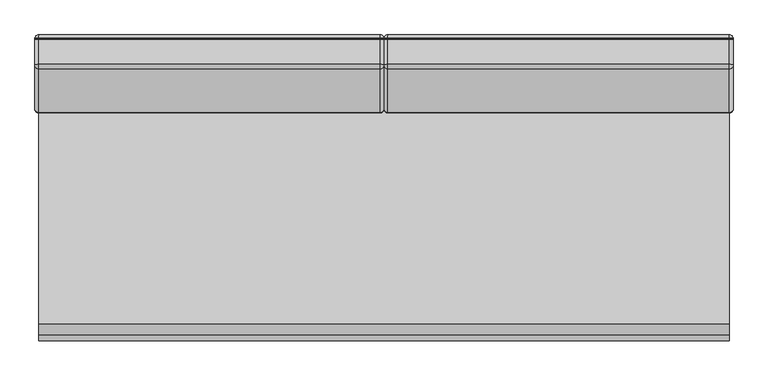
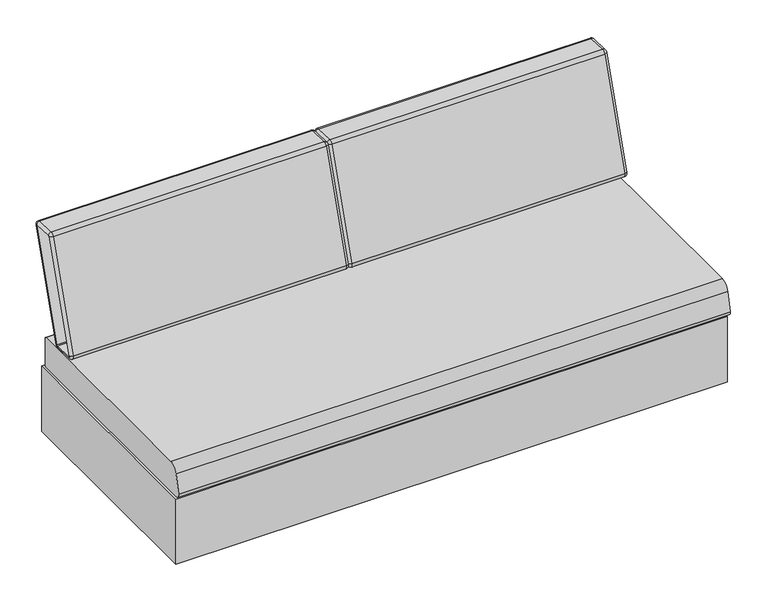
"""IFC4 building model written with IfcOpenShell, lengths in millimetres: furniture geometry, Krug-Amelio-Sleep_Sofa : AME6SL74FALS2."""

import ifcopenshell
import ifcopenshell.guid

model = None  # the IFC model being written
_history = None  # IfcOwnerHistory: only IFC2X3 demands one
_inside = {}  # id of a spatial element -> (the spatial element, [elements in it])
_under = {}  # id of a project, library or spatial element -> (it, [spatial elements below it])
_declared = {}  # id of a project -> (the project, [libraries it declares])
_typed = {}  # id of a type object -> (the type object, [elements of that type])
_made_of = {}  # id of a material, layer set ... -> (it, [elements and type objects made of it])


def new_model(schema):
    """Start an empty IFC model of exactly this schema.

    Asked for "IFC4X3", IfcOpenShell would pick the latest addendum, in which some entities
    have other attributes; the version numbers below select the first issue.
    IFC2X3 requires an IfcOwnerHistory on every rooted entity: one is made here for all.
    """
    global model, _history
    if schema == "IFC4X3":
        model = ifcopenshell.file(schema_version=(4, 3, 0, 0))
    else:
        model = ifcopenshell.file(schema=schema)
    _inside.clear()
    _under.clear()
    _declared.clear()
    _typed.clear()
    _made_of.clear()
    _history = None
    if model.schema == "IFC2X3":
        org = make("IfcOrganization", Name="unknown")
        user = make(
            "IfcPersonAndOrganization",
            ThePerson=make("IfcPerson", FamilyName="unknown"),
            TheOrganization=org,
        )
        app = make(
            "IfcApplication",
            ApplicationDeveloper=org,
            Version="unknown",
            ApplicationFullName="unknown",
            ApplicationIdentifier="unknown",
        )
        _history = make(
            "IfcOwnerHistory",
            OwningUser=user,
            OwningApplication=app,
            ChangeAction="ADDED",
            CreationDate=0,
        )
    return model


def make(cls, **values):
    """One entity of the class cls with the attributes given. An attribute that is None is left unset."""
    return model.create_entity(
        cls, **{name: value for name, value in values.items() if value is not None}
    )


def rooted(cls, **values):
    """An entity with a GlobalId (a new one), such as an element, a storey or a relation."""
    return make(cls, GlobalId=ifcopenshell.guid.new(), OwnerHistory=_history, **values)


def si_unit(unit_type, name, prefix=None):
    """IfcSIUnit, for example si_unit("LENGTHUNIT", "METRE", prefix="MILLI")."""
    return make("IfcSIUnit", UnitType=unit_type, Prefix=prefix, Name=name)


def assignment(units):
    """IfcUnitAssignment: the units of a project."""
    return None if units is None else make("IfcUnitAssignment", Units=units)


def point(xyz):
    """IfcCartesianPoint."""
    return None if xyz is None else make("IfcCartesianPoint", Coordinates=xyz)


def direction(xyz):
    """IfcDirection."""
    return None if xyz is None else make("IfcDirection", DirectionRatios=xyz)


def frame(location, z_axis=None, x_axis=None):
    """IfcAxis2Placement3D, a coordinate frame: its origin and axes. An axis left out is left unset."""
    return make(
        "IfcAxis2Placement3D",
        Location=point(location),
        Axis=direction(z_axis),
        RefDirection=direction(x_axis),
    )


def frame_2d(location, x_axis=None):
    """IfcAxis2Placement2D, a coordinate frame in the plane: its origin and x axis."""
    return make(
        "IfcAxis2Placement2D", Location=point(location), RefDirection=direction(x_axis)
    )


def origin():
    """The frame at (0, 0, 0) with its axes left unset."""
    return frame((0.0, 0.0, 0.0))


def place(relative_to, where):
    """IfcLocalPlacement: puts the frame where relative to a parent placement (None: the world)."""
    return make(
        "IfcLocalPlacement", PlacementRelTo=relative_to, RelativePlacement=where
    )


def context(
    kind, dimensions, precision=None, world=None, true_north=None, identifier=None
):
    """IfcGeometricRepresentationContext, for example the 3D "Model" context."""
    return make(
        "IfcGeometricRepresentationContext",
        ContextIdentifier=identifier,
        ContextType=kind,
        CoordinateSpaceDimension=dimensions,
        Precision=precision,
        WorldCoordinateSystem=world,
        TrueNorth=true_north,
    )


def project(units=None, contexts=None):
    """IfcProject with its units and contexts."""
    return rooted(
        "IfcProject",
        Name="project",
        RepresentationContexts=contexts,
        UnitsInContext=assignment(units),
    )


def spatial(cls, under=None, at=None, **own):
    """A site, building, storey or space (cls), placed at a placement, below another one or the project."""
    s = rooted(cls, ObjectPlacement=at, **own)
    if under is not None:
        _under.setdefault(under.id(), (under, []))[1].append(s)
    return s


def polyline(points):
    """IfcPolyline through the points."""
    return make("IfcPolyline", Points=[point(p) for p in points])


def circle_curve(where, radius):
    """IfcCircle in the frame where."""
    return make("IfcCircle", Position=where, Radius=radius)


def ellipse_curve(where, semi_axis1, semi_axis2):
    """IfcEllipse in the frame where."""
    return make(
        "IfcEllipse", Position=where, SemiAxis1=semi_axis1, SemiAxis2=semi_axis2
    )


def trimmed(basis, trim1, trim2, sense, master):
    """IfcTrimmedCurve: the piece of a basis curve between two trims."""
    return make(
        "IfcTrimmedCurve",
        BasisCurve=basis,
        Trim1=trim1,
        Trim2=trim2,
        SenseAgreement=sense,
        MasterRepresentation=master,
    )


def segment(curve, same_sense, transition):
    """IfcCompositeCurveSegment."""
    return make(
        "IfcCompositeCurveSegment",
        Transition=transition,
        SameSense=same_sense,
        ParentCurve=curve,
    )


def composite_curve(segments, self_intersect=None):
    """IfcCompositeCurve: segments joined end to end."""
    return make("IfcCompositeCurve", Segments=segments, SelfIntersect=self_intersect)


def outline(outer, holes=None, kind="AREA"):
    """IfcArbitraryClosedProfileDef: a profile drawn as a closed curve; with holes, ...WithVoids."""
    if holes is None:
        return make("IfcArbitraryClosedProfileDef", ProfileType=kind, OuterCurve=outer)
    return make(
        "IfcArbitraryProfileDefWithVoids",
        ProfileType=kind,
        OuterCurve=outer,
        InnerCurves=holes,
    )


def extrude(swept, where, along, depth):
    """IfcExtrudedAreaSolid: the profile swept, set in the frame where, extruded along a direction by depth."""
    return make(
        "IfcExtrudedAreaSolid",
        SweptArea=swept,
        Position=where,
        ExtrudedDirection=direction(along),
        Depth=depth,
    )


def shape(context_of_items, identifier, shape_type, items):
    """IfcShapeRepresentation: the items that make up one representation, for example the "Body"."""
    return make(
        "IfcShapeRepresentation",
        ContextOfItems=context_of_items,
        RepresentationIdentifier=identifier,
        RepresentationType=shape_type,
        Items=items,
    )


def source(mapping_origin, context_of_items, identifier, shape_type, items):
    """IfcRepresentationMap: a shape defined once, which mapped items show again and again."""
    return make(
        "IfcRepresentationMap",
        MappingOrigin=mapping_origin,
        MappedRepresentation=shape(context_of_items, identifier, shape_type, items),
    )


def transform(
    local_origin,
    x_axis=None,
    y_axis=None,
    z_axis=None,
    scale=None,
    scale2=None,
    scale3=None,
    uniform=True,
):
    """IfcCartesianTransformationOperator3D, or its non-uniform kind. x_axis, y_axis, z_axis: its Axis1, 2, 3."""
    if uniform:
        return make(
            "IfcCartesianTransformationOperator3D",
            Axis1=direction(x_axis),
            Axis2=direction(y_axis),
            LocalOrigin=point(local_origin),
            Scale=scale,
            Axis3=direction(z_axis),
        )
    return make(
        "IfcCartesianTransformationOperator3DnonUniform",
        Axis1=direction(x_axis),
        Axis2=direction(y_axis),
        LocalOrigin=point(local_origin),
        Scale=scale,
        Axis3=direction(z_axis),
        Scale2=scale2,
        Scale3=scale3,
    )


def mapped(mapping_source, mapping_target):
    """IfcMappedItem: shows the shape of a source again, moved by a transform."""
    return make(
        "IfcMappedItem", MappingSource=mapping_source, MappingTarget=mapping_target
    )


def made_of(thing, what):
    """Note that an element or type object is made of a material, layer set ...; save() writes the relation."""
    if what is not None:
        _made_of.setdefault(what.id(), (what, []))[1].append(thing)
    return thing


def element(
    cls,
    number,
    at=None,
    inside=None,
    cuts=None,
    type_object=None,
    material=None,
    context=None,
    identifier="Body",
    shape_type=None,
    held_by="IfcProductDefinitionShape",
    body=None,
    shapes=None,
    **own,
):
    """One element of the class cls, such as IfcWall. Its Tag is "e" and its number.

    at: its placement. inside: the storey or other place that contains it. cuts: it is an
    opening in that element (IfcRelVoidsElement). A single representation is given by context,
    identifier, shape_type and body (its items); several are given by shapes. held_by: the class
    of the entity that holds the representations. save() writes the other relations.
    """
    e = rooted(cls, Tag="e%d" % number, ObjectPlacement=at, **own)
    if body is not None:
        shapes = [shape(context, identifier, shape_type, body)]
    if shapes is not None:
        e.Representation = make(held_by, Representations=shapes)
    if inside is not None:
        _inside.setdefault(inside.id(), (inside, []))[1].append(e)
    if cuts is not None:
        rooted(
            "IfcRelVoidsElement", RelatingBuildingElement=cuts, RelatedOpeningElement=e
        )
    if type_object is not None:
        _typed.setdefault(type_object.id(), (type_object, []))[1].append(e)
    return made_of(e, material)


def aggregate(whole, parts):
    """IfcRelAggregates: a whole, such as a stair, and the parts it consists of."""
    return rooted("IfcRelAggregates", RelatingObject=whole, RelatedObjects=parts)


def save(model, path):
    """Write the relations noted so far, then the file.

    IfcRelAggregates (storeys below a building ...), IfcRelContainedInSpatialStructure (elements
    in a storey), IfcRelDefinesByType, IfcRelAssociatesMaterial and IfcRelDeclares: one each for
    every whole, place, type object, material and project.
    """
    for whole, parts in _under.values():
        aggregate(whole, parts)
    for where, things in _inside.values():
        rooted(
            "IfcRelContainedInSpatialStructure",
            RelatedElements=things,
            RelatingStructure=where,
        )
    for kind, things in _typed.values():
        rooted("IfcRelDefinesByType", RelatedObjects=things, RelatingType=kind)
    for what, things in _made_of.values():
        rooted("IfcRelAssociatesMaterial", RelatedObjects=things, RelatingMaterial=what)
    for by, libraries in _declared.values():
        rooted("IfcRelDeclares", RelatingContext=by, RelatedDefinitions=libraries)
    model.write(path)


def plane_surface(at):
    """IfcPlane: the flat surface through the origin of the frame at, square to its z axis."""
    return make("IfcPlane", Position=at)


def cylinder_surface(at, radius):
    """IfcCylindricalSurface: all points at the distance radius from the z axis of the frame at."""
    return make("IfcCylindricalSurface", Position=at, Radius=radius)


def revolved_surface(curve, axis_point, axis_direction):
    """IfcSurfaceOfRevolution: the curve turned about the line through axis_point along axis_direction."""
    return make(
        "IfcSurfaceOfRevolution",
        SweptCurve=make("IfcArbitraryOpenProfileDef", ProfileType="CURVE", Curve=curve),
        AxisPosition=make("IfcAxis1Placement", Location=point(axis_point), Axis=direction(axis_direction)),
    )


def advanced_brep(points, edges, surfaces, faces):
    """IfcAdvancedBrep: a solid bounded by faces that lie on surfaces and meet in shared edges.

    An edge is (start, end): straight between two places in points (the first is 0);
    or (start, end, curve); or (start, end, curve, False) where it runs against its curve.
    A face is (place in surfaces, loops), or (place, loops, False) where it looks against
    its surface's normal. A loop lists edges by number (the first is 1), with a minus sign
    where the edge is run from its end to its start. The first loop is the outer one.
    """
    corners = [point(p) for p in points]
    vertices = [make("IfcVertexPoint", VertexGeometry=c) for c in corners]
    made = []
    for start, end, *more in edges:
        made.append(
            make(
                "IfcEdgeCurve",
                EdgeStart=vertices[start],
                EdgeEnd=vertices[end],
                EdgeGeometry=more[0] if more else make("IfcPolyline", Points=[corners[start], corners[end]]),
                SameSense=more[1] if len(more) > 1 else True,
            )
        )
    hull = []
    for where, loops, *sense in faces:
        bounds = []
        for j, loop in enumerate(loops):
            ring = [make("IfcOrientedEdge", EdgeElement=made[abs(k) - 1], Orientation=k > 0) for k in loop]
            bounds.append(
                make(
                    "IfcFaceOuterBound" if j == 0 else "IfcFaceBound",
                    Bound=make("IfcEdgeLoop", EdgeList=ring),
                    Orientation=True,
                )
            )
        hull.append(make("IfcAdvancedFace", Bounds=bounds, FaceSurface=surfaces[where], SameSense=sense[0] if sense else True))
    return make("IfcAdvancedBrep", Outer=make("IfcClosedShell", CfsFaces=hull))


def furniture_b6e96d69(model_context):
    return source(origin(), model_context, "Body", "SolidModel", [
        advanced_brep(
        [(1854.2001333, -244.1613466, 490.8794921), (1854.2001333, -231.6553236, 499.5994929), (1863.7251333, -240.7024231, 502.5786899), (1863.7251333, -243.8289289, 500.3986897), (949.325, -244.1613466, 490.8794921), (949.325, -231.6553236, 499.5994929), (939.8, -243.901483, 498.3210124), (939.8, -238.7277869, 501.928445), (930.275, -244.1613466, 490.8794921), (930.275, -231.6553236, 499.5994929), (25.3998667, -244.1613466, 490.8794921), (25.3998667, -231.6553236, 499.5994929), (15.8748667, -243.8289289, 500.3986897), (15.8748667, -240.7024231, 502.5786899), (1863.7251333, -309.9230014, 502.7067456), (1854.2001333, -310.2554191, 493.1875479), (949.325, -310.2554191, 493.1875479), (939.8, -309.9955555, 500.6290683), (930.275, -310.2554191, 493.1875479), (25.3998667, -310.2554191, 493.1875479), (15.8748667, -309.9230014, 502.7067456), (1854.2001333, -321.8749949, 509.8520741), (1863.7251333, -312.8278953, 506.8728771), (949.325, -321.8749949, 509.8520741), (939.8, -314.8025316, 507.523122), (930.275, -321.8749949, 509.8520741), (25.3998667, -321.8749949, 509.8520741), (15.8748667, -312.8278953, 506.8728771), (1863.7251333, -197.8431, 856.0538432), (1854.2001333, -206.8901995, 859.0330402), (949.325, -206.8901995, 859.0330402), (939.8, -199.8177363, 856.7040882), (930.275, -206.8901995, 859.0330402), (25.3998667, -206.8901995, 859.0330402), (15.8748667, -197.8431, 856.0538432), (1854.2001333, -194.3841765, 867.7530411), (1863.7251333, -194.7165942, 858.2338434), (949.325, -194.3841765, 867.7530411), (939.8, -194.6440401, 860.3115207), (930.275, -194.3841765, 867.7530411), (25.3998667, -194.3841765, 867.7530411), (15.8748667, -194.7165942, 858.2338434), (1863.7251333, -128.6225217, 855.9257876), (1854.2001333, -128.290104, 865.4449852), (949.325, -128.290104, 865.4449852), (939.8, -128.5499676, 858.0034648), (930.275, -128.290104, 865.4449852), (25.3998667, -128.290104, 865.4449852), (15.8748667, -128.6225217, 855.9257876), (1854.2001333, -116.6705282, 848.780459), (1863.7251333, -125.7176278, 851.759656), (949.325, -116.6705282, 848.780459), (939.8, -123.7429915, 851.1094111), (930.275, -116.6705282, 848.780459), (25.3998667, -116.6705282, 848.780459), (15.8748667, -125.7176278, 851.759656)],
        [
            (0, 1, circle_curve(frame((1854.2001333, -243.718123, 503.5717556), z_axis=(1.0, 0.0, 0.0), x_axis=(0.0, 0.9498267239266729, -0.31277658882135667)), 12.7)),
            (1, 2, circle_curve(frame((1854.2001333, -240.7024231, 502.5786899), z_axis=(0.0, -0.3127765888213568, -0.9498267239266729), x_axis=(0.0, 0.9498267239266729, -0.3127765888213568)), 9.525)),
            (2, 3, circle_curve(frame((1863.7251333, -243.718123, 503.5717556), z_axis=(-1.0, 0.0, 0.0), x_axis=(0.0, 0.9498267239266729, -0.31277658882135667)), 3.175)),
            (3, 0, circle_curve(frame((1854.2001333, -243.8289289, 500.3986897), z_axis=(0.0, 0.9993908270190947, -0.03489949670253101), x_axis=(0.0, -0.03489949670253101, -0.9993908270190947)), 9.525)),
            (4, 5, circle_curve(frame((949.325, -243.718123, 503.5717556), z_axis=(1.0, 0.0, 0.0), x_axis=(0.0, 0.9498267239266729, -0.31277658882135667)), 12.7)),
            (5, 1),
            (0, 4),
            (6, 7, circle_curve(frame((939.8, -243.718123, 503.5717556), z_axis=(1.0, 0.0, 0.0), x_axis=(0.0, 0.9498267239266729, -0.31277658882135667)), 5.2539437)),
            (7, 5, circle_curve(frame((949.325, -240.978083, 502.6694643), z_axis=(0.0, -0.3127765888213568, -0.9498267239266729), x_axis=(0.0, 0.9498267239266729, -0.3127765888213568)), 9.8152212)),
            (4, 6, circle_curve(frame((949.325, -243.8188003, 500.6887341), z_axis=(0.0, 0.9993908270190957, -0.034899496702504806), x_axis=(0.0, -0.034899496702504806, -0.9993908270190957)), 9.8152212)),
            (8, 9, circle_curve(frame((930.275, -243.718123, 503.5717556), z_axis=(1.0, 0.0, 0.0), x_axis=(0.0, 0.9498267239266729, -0.31277658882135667)), 12.7)),
            (9, 7, circle_curve(frame((930.275, -240.978083, 502.6694643), z_axis=(0.0, -0.3127765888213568, -0.9498267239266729), x_axis=(0.0, 0.9498267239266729, -0.3127765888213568)), 9.8152212)),
            (6, 8, circle_curve(frame((930.275, -243.8188003, 500.6887341), z_axis=(0.0, 0.9993908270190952, -0.03489949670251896), x_axis=(0.0, -0.03489949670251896, -0.9993908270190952)), 9.8152212)),
            (10, 11, circle_curve(frame((25.3998667, -243.718123, 503.5717556), z_axis=(1.0, 0.0, 0.0), x_axis=(0.0, 0.9498267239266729, -0.31277658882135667)), 12.7)),
            (11, 9),
            (8, 10),
            (12, 13, circle_curve(frame((15.8748667, -243.718123, 503.5717556), z_axis=(1.0, 0.0, 0.0), x_axis=(0.0, 0.9498267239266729, -0.31277658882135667)), 3.175)),
            (13, 11, circle_curve(frame((25.3998667, -240.7024231, 502.5786899), z_axis=(0.0, -0.3127765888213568, -0.9498267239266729), x_axis=(0.0, 0.9498267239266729, -0.3127765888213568)), 9.525)),
            (10, 12, circle_curve(frame((25.3998667, -243.8289289, 500.3986897), z_axis=(0.0, 0.9993908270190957, -0.03489949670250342), x_axis=(0.0, -0.03489949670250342, -0.9993908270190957)), 9.525)),
            (2, 13),
            (12, 3),
            (3, 14),
            (14, 15, circle_curve(frame((1854.2001333, -309.9230014, 502.7067456), z_axis=(0.0, 0.9993908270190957, -0.0348994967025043), x_axis=(0.0, -0.0348994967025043, -0.9993908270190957)), 9.525)),
            (15, 0),
            (15, 16),
            (16, 4),
            (16, 17, circle_curve(frame((949.325, -309.9128728, 502.99679), z_axis=(0.0, 0.9993908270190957, -0.0348994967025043), x_axis=(0.0, -0.0348994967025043, -0.9993908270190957)), 9.8152212)),
            (17, 6),
            (17, 18, circle_curve(frame((930.275, -309.9128728, 502.99679), z_axis=(0.0, 0.9993908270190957, -0.0348994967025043), x_axis=(0.0, -0.0348994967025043, -0.9993908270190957)), 9.8152212)),
            (18, 8),
            (18, 19),
            (19, 10),
            (19, 20, circle_curve(frame((25.3998667, -309.9230014, 502.7067456), z_axis=(0.0, 0.9993908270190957, -0.0348994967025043), x_axis=(0.0, -0.0348994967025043, -0.9993908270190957)), 9.525)),
            (20, 12),
            (20, 14),
            (21, 15, circle_curve(frame((1854.2001333, -309.8121955, 505.8798114), z_axis=(1.0, 0.0, 0.0), x_axis=(0.0, -0.034899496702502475, -0.9993908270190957)), 12.7)),
            (14, 22, circle_curve(frame((1863.7251333, -309.8121955, 505.8798114), z_axis=(-1.0, 0.0, 0.0), x_axis=(0.0, -0.034899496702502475, -0.9993908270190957)), 3.175)),
            (22, 21, circle_curve(frame((1854.2001333, -312.8278953, 506.8728771), z_axis=(0.0, -0.31277658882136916, -0.9498267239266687), x_axis=(0.0, -0.9498267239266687, 0.31277658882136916)), 9.525)),
            (23, 16, circle_curve(frame((949.325, -309.8121955, 505.8798114), z_axis=(1.0, 0.0, 0.0), x_axis=(0.0, -0.034899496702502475, -0.9993908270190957)), 12.7)),
            (21, 23),
            (24, 17, circle_curve(frame((939.8, -309.8121955, 505.8798114), z_axis=(1.0, 0.0, 0.0), x_axis=(0.0, -0.034899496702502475, -0.9993908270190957)), 5.2539437)),
            (23, 24, circle_curve(frame((949.325, -312.5522355, 506.7821027), z_axis=(0.0, -0.312776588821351, -0.9498267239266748), x_axis=(0.0, -0.9498267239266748, 0.312776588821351)), 9.8152212)),
            (25, 18, circle_curve(frame((930.275, -309.8121955, 505.8798114), z_axis=(1.0, 0.0, 0.0), x_axis=(0.0, -0.034899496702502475, -0.9993908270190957)), 12.7)),
            (24, 25, circle_curve(frame((930.275, -312.5522355, 506.7821027), z_axis=(0.0, -0.31277658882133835, -0.9498267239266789), x_axis=(0.0, -0.9498267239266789, 0.31277658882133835)), 9.8152212)),
            (26, 19, circle_curve(frame((25.3998667, -309.8121955, 505.8798114), z_axis=(1.0, 0.0, 0.0), x_axis=(0.0, -0.034899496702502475, -0.9993908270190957)), 12.7)),
            (25, 26),
            (27, 20, circle_curve(frame((15.8748667, -309.8121955, 505.8798114), z_axis=(1.0, 0.0, 0.0), x_axis=(0.0, -0.034899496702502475, -0.9993908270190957)), 3.175)),
            (26, 27, circle_curve(frame((25.3998667, -312.8278953, 506.8728771), z_axis=(0.0, -0.31277658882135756, -0.9498267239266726), x_axis=(0.0, -0.9498267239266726, 0.31277658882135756)), 9.525)),
            (27, 22),
            (22, 28),
            (28, 29, circle_curve(frame((1854.2001333, -197.8431, 856.0538432), z_axis=(0.0, -0.31277658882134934, -0.9498267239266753), x_axis=(0.0, -0.9498267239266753, 0.31277658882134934)), 9.525)),
            (29, 21),
            (29, 30),
            (30, 23),
            (30, 31, circle_curve(frame((949.325, -197.5674401, 855.9630688), z_axis=(0.0, -0.31277658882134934, -0.9498267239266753), x_axis=(0.0, -0.9498267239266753, 0.31277658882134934)), 9.8152212)),
            (31, 24),
            (31, 32, circle_curve(frame((930.275, -197.5674401, 855.9630688), z_axis=(0.0, -0.31277658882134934, -0.9498267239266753), x_axis=(0.0, -0.9498267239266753, 0.31277658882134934)), 9.8152212)),
            (32, 25),
            (32, 33),
            (33, 26),
            (33, 34, circle_curve(frame((25.3998667, -197.8431, 856.0538432), z_axis=(0.0, -0.31277658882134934, -0.9498267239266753), x_axis=(0.0, -0.9498267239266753, 0.31277658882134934)), 9.525)),
            (34, 27),
            (34, 28),
            (35, 29, circle_curve(frame((1854.2001333, -194.8274001, 855.0607776), z_axis=(1.0, 0.0, 0.0), x_axis=(0.0, -0.9498267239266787, 0.3127765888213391)), 12.7)),
            (28, 36, circle_curve(frame((1863.7251333, -194.8274001, 855.0607776), z_axis=(-1.0, 0.0, 0.0), x_axis=(0.0, -0.9498267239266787, 0.3127765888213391)), 3.175)),
            (36, 35, circle_curve(frame((1854.2001333, -194.7165942, 858.2338434), z_axis=(0.0, -0.999390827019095, 0.03489949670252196), x_axis=(0.0, 0.03489949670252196, 0.999390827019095)), 9.525)),
            (37, 30, circle_curve(frame((949.325, -194.8274001, 855.0607776), z_axis=(1.0, 0.0, 0.0), x_axis=(0.0, -0.9498267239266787, 0.3127765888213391)), 12.7)),
            (35, 37),
            (38, 31, circle_curve(frame((939.8, -194.8274001, 855.0607776), z_axis=(1.0, 0.0, 0.0), x_axis=(0.0, -0.9498267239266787, 0.3127765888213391)), 5.2539437)),
            (37, 38, circle_curve(frame((949.325, -194.7267228, 857.943799), z_axis=(0.0, -0.9993908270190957, 0.03489949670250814), x_axis=(0.0, 0.03489949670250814, 0.9993908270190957)), 9.8152212)),
            (39, 32, circle_curve(frame((930.275, -194.8274001, 855.0607776), z_axis=(1.0, 0.0, 0.0), x_axis=(0.0, -0.9498267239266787, 0.3127765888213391)), 12.7)),
            (38, 39, circle_curve(frame((930.275, -194.7267228, 857.943799), z_axis=(0.0, -0.9993908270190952, 0.03489949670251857), x_axis=(0.0, 0.03489949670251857, 0.9993908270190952)), 9.8152212)),
            (40, 33, circle_curve(frame((25.3998667, -194.8274001, 855.0607776), z_axis=(1.0, 0.0, 0.0), x_axis=(0.0, -0.9498267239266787, 0.3127765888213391)), 12.7)),
            (39, 40),
            (41, 34, circle_curve(frame((15.8748667, -194.8274001, 855.0607776), z_axis=(1.0, 0.0, 0.0), x_axis=(0.0, -0.9498267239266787, 0.3127765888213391)), 3.175)),
            (40, 41, circle_curve(frame((25.3998667, -194.7165942, 858.2338434), z_axis=(0.0, -0.9993908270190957, 0.03489949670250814), x_axis=(0.0, 0.03489949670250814, 0.9993908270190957)), 9.525)),
            (41, 36),
            (36, 42),
            (42, 43, circle_curve(frame((1854.2001333, -128.6225217, 855.9257876), z_axis=(0.0, -0.9993908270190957, 0.03489949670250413), x_axis=(0.0, 0.03489949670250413, 0.9993908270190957)), 9.525)),
            (43, 35),
            (43, 44),
            (44, 37),
            (44, 45, circle_curve(frame((949.325, -128.6326503, 855.6357432), z_axis=(0.0, -0.9993908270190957, 0.03489949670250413), x_axis=(0.0, 0.03489949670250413, 0.9993908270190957)), 9.8152212)),
            (45, 38),
            (45, 46, circle_curve(frame((930.275, -128.6326503, 855.6357432), z_axis=(0.0, -0.9993908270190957, 0.03489949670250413), x_axis=(0.0, 0.03489949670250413, 0.9993908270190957)), 9.8152212)),
            (46, 39),
            (46, 47),
            (47, 40),
            (47, 48, circle_curve(frame((25.3998667, -128.6225217, 855.9257876), z_axis=(0.0, -0.9993908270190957, 0.03489949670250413), x_axis=(0.0, 0.03489949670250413, 0.9993908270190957)), 9.525)),
            (48, 41),
            (48, 42),
            (49, 43, circle_curve(frame((1854.2001333, -128.7333276, 852.7527217), z_axis=(1.0, 0.0, 0.0), x_axis=(0.0, 0.034899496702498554, 0.9993908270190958)), 12.7)),
            (42, 50, circle_curve(frame((1863.7251333, -128.7333276, 852.7527217), z_axis=(-1.0, 0.0, 0.0), x_axis=(0.0, 0.034899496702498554, 0.9993908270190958)), 3.175)),
            (50, 49, circle_curve(frame((1854.2001333, -125.7176278, 851.759656), z_axis=(0.0, 0.31277658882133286, 0.9498267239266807), x_axis=(0.0, 0.9498267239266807, -0.31277658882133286)), 9.525)),
            (51, 44, circle_curve(frame((949.325, -128.7333276, 852.7527217), z_axis=(1.0, 0.0, 0.0), x_axis=(0.0, 0.034899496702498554, 0.9993908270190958)), 12.7)),
            (49, 51),
            (52, 45, circle_curve(frame((939.8, -128.7333276, 852.7527217), z_axis=(1.0, 0.0, 0.0), x_axis=(0.0, 0.034899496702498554, 0.9993908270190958)), 5.2539437)),
            (51, 52, circle_curve(frame((949.325, -125.9932876, 851.8504304), z_axis=(0.0, 0.3127765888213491, 0.9498267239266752), x_axis=(0.0, 0.9498267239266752, -0.3127765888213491)), 9.8152212)),
            (53, 46, circle_curve(frame((930.275, -128.7333276, 852.7527217), z_axis=(1.0, 0.0, 0.0), x_axis=(0.0, 0.034899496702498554, 0.9993908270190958)), 12.7)),
            (52, 53, circle_curve(frame((930.275, -125.9932876, 851.8504304), z_axis=(0.0, 0.31277658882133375, 0.9498267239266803), x_axis=(0.0, 0.9498267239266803, -0.31277658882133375)), 9.8152212)),
            (54, 47, circle_curve(frame((25.3998667, -128.7333276, 852.7527217), z_axis=(1.0, 0.0, 0.0), x_axis=(0.0, 0.034899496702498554, 0.9993908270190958)), 12.7)),
            (53, 54),
            (55, 48, circle_curve(frame((15.8748667, -128.7333276, 852.7527217), z_axis=(1.0, 0.0, 0.0), x_axis=(0.0, 0.034899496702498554, 0.9993908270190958)), 3.175)),
            (54, 55, circle_curve(frame((25.3998667, -125.7176278, 851.759656), z_axis=(0.0, 0.3127765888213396, 0.9498267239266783), x_axis=(0.0, 0.9498267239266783, -0.3127765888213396)), 9.525)),
            (55, 50),
            (50, 2),
            (1, 49),
            (5, 51),
            (7, 52),
            (9, 53),
            (11, 54),
            (13, 55),
        ],
        [
            revolved_surface(trimmed(ellipse_curve(frame((1854.2001333, -240.7024231, 502.5786899), z_axis=(0.0, 0.3127765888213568, 0.9498267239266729), x_axis=(0.0, 0.9498267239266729, -0.3127765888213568)), 9.525, 9.525), [point((1863.7251333, -240.7024231, 502.5786899))], [point((1854.2001333, -231.6553236, 499.5994929))], True, "CARTESIAN"), (15.8748667, -243.718123, 503.5717556), (-1.0, 0.0, 0.0)),
            cylinder_surface(frame((15.8748667, -243.718123, 503.5717556), z_axis=(-1.0, 0.0, 0.0), x_axis=(0.0, 0.9498267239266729, -0.31277658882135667)), 12.7),
            revolved_surface(trimmed(ellipse_curve(frame((949.325, -240.978083, 502.6694643), z_axis=(0.0, 0.3127765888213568, 0.9498267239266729), x_axis=(0.0, 0.9498267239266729, -0.3127765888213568)), 9.8152212, 9.8152212), [point((949.325, -231.6553236, 499.5994929))], [point((939.8, -238.7277869, 501.928445))], True, "CARTESIAN"), (15.8748667, -243.718123, 503.5717556), (-1.0, 0.0, 0.0)),
            revolved_surface(trimmed(ellipse_curve(frame((930.275, -240.978083, 502.6694643), z_axis=(0.0, 0.3127765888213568, 0.9498267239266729), x_axis=(0.0, 0.9498267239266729, -0.3127765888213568)), 9.8152212, 9.8152212), [point((939.8, -238.7277869, 501.928445))], [point((930.275, -231.6553236, 499.5994929))], True, "CARTESIAN"), (15.8748667, -243.718123, 503.5717556), (-1.0, 0.0, 0.0)),
            revolved_surface(trimmed(ellipse_curve(frame((25.3998667, -240.7024231, 502.5786899), z_axis=(0.0, 0.3127765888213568, 0.9498267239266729), x_axis=(0.0, 0.9498267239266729, -0.3127765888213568)), 9.525, 9.525), [point((25.3998667, -231.6553236, 499.5994929))], [point((15.8748667, -240.7024231, 502.5786899))], True, "CARTESIAN"), (15.8748667, -243.718123, 503.5717556), (-1.0, 0.0, 0.0)),
            revolved_surface(polyline([(15.8748667, -240.7024231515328, 502.5786899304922), (1863.7251333, -240.7024231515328, 502.5786899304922)]), (15.8748667, -243.718123, 503.5717556), (-1.0, 0.0, 0.0)),
            cylinder_surface(frame((1854.2001333, -243.8289289, 500.3986897), z_axis=(0.0, 0.9993908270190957, -0.0348994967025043), x_axis=(0.0, -0.0348994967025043, -0.9993908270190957)), 9.525),
            plane_surface(frame((1854.2001333, -244.1613466, 490.8794921), z_axis=(0.0, -0.03489949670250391, -0.9993908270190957), x_axis=(0.0, -0.9993908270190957, 0.03489949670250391))),
            cylinder_surface(frame((949.325, -243.8188003, 500.6887341), z_axis=(0.0, 0.9993908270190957, -0.0348994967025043), x_axis=(0.0, -0.0348994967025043, -0.9993908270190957)), 9.8152212),
            cylinder_surface(frame((930.275, -243.8188003, 500.6887341), z_axis=(0.0, 0.9993908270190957, -0.0348994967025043), x_axis=(0.0, -0.0348994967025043, -0.9993908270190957)), 9.8152212),
            plane_surface(frame((930.275, -244.1613466, 490.8794921), z_axis=(0.0, -0.03489949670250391, -0.9993908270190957), x_axis=(0.0, -0.9993908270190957, 0.03489949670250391))),
            cylinder_surface(frame((25.3998667, -243.8289289, 500.3986897), z_axis=(0.0, 0.9993908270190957, -0.0348994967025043), x_axis=(0.0, -0.0348994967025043, -0.9993908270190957)), 9.525),
            plane_surface(frame((15.8748667, -243.8289289, 500.3986897), z_axis=(0.0, 0.03489949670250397, 0.9993908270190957), x_axis=(0.0, -0.9993908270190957, 0.03489949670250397))),
            revolved_surface(trimmed(ellipse_curve(frame((1854.2001333, -309.9230014, 502.7067456), z_axis=(0.0, 0.9993908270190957, -0.03489949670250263), x_axis=(0.0, -0.03489949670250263, -0.9993908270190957)), 9.525, 9.525), [point((1863.7251333, -309.9230014, 502.7067456))], [point((1854.2001333, -310.2554191, 493.1875479))], True, "CARTESIAN"), (15.8748667, -309.8121955, 505.8798114), (-1.0, 0.0, 0.0)),
            cylinder_surface(frame((15.8748667, -309.8121955, 505.8798114), z_axis=(-1.0, 0.0, 0.0), x_axis=(0.0, -0.034899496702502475, -0.9993908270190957)), 12.7),
            revolved_surface(trimmed(ellipse_curve(frame((949.325, -309.9128728, 502.99679), z_axis=(0.0, 0.9993908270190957, -0.03489949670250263), x_axis=(0.0, -0.03489949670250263, -0.9993908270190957)), 9.8152212, 9.8152212), [point((949.325, -310.2554191, 493.1875479))], [point((939.8, -309.9955555, 500.6290683))], True, "CARTESIAN"), (15.8748667, -309.8121955, 505.8798114), (-1.0, 0.0, 0.0)),
            revolved_surface(trimmed(ellipse_curve(frame((930.275, -309.9128728, 502.99679), z_axis=(0.0, 0.9993908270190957, -0.03489949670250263), x_axis=(0.0, -0.03489949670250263, -0.9993908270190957)), 9.8152212, 9.8152212), [point((939.8, -309.9955555, 500.6290683))], [point((930.275, -310.2554191, 493.1875479))], True, "CARTESIAN"), (15.8748667, -309.8121955, 505.8798114), (-1.0, 0.0, 0.0)),
            revolved_surface(trimmed(ellipse_curve(frame((25.3998667, -309.9230014, 502.7067456), z_axis=(0.0, 0.9993908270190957, -0.03489949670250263), x_axis=(0.0, -0.03489949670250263, -0.9993908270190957)), 9.525, 9.525), [point((25.3998667, -310.2554191, 493.1875479))], [point((15.8748667, -309.9230014, 502.7067456))], True, "CARTESIAN"), (15.8748667, -309.8121955, 505.8798114), (-1.0, 0.0, 0.0)),
            revolved_surface(polyline([(15.8748667, -309.9230014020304, 502.70674552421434), (1863.7251333, -309.9230014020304, 502.70674552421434)]), (15.8748667, -309.8121955, 505.8798114), (-1.0, 0.0, 0.0)),
            cylinder_surface(frame((1854.2001333, -312.8278953, 506.8728771), z_axis=(0.0, -0.31277658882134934, -0.9498267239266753), x_axis=(0.0, -0.9498267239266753, 0.31277658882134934)), 9.525),
            plane_surface(frame((1854.2001333, -321.8749949, 509.8520741), z_axis=(0.0, -0.9498267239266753, 0.3127765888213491), x_axis=(0.0, 0.3127765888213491, 0.9498267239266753))),
            cylinder_surface(frame((949.325, -312.5522355, 506.7821027), z_axis=(0.0, -0.31277658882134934, -0.9498267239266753), x_axis=(0.0, -0.9498267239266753, 0.31277658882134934)), 9.8152212),
            cylinder_surface(frame((930.275, -312.5522355, 506.7821027), z_axis=(0.0, -0.31277658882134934, -0.9498267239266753), x_axis=(0.0, -0.9498267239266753, 0.31277658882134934)), 9.8152212),
            plane_surface(frame((930.275, -321.8749949, 509.8520741), z_axis=(0.0, -0.9498267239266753, 0.3127765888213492), x_axis=(0.0, 0.3127765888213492, 0.9498267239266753))),
            cylinder_surface(frame((25.3998667, -312.8278953, 506.8728771), z_axis=(0.0, -0.31277658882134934, -0.9498267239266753), x_axis=(0.0, -0.9498267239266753, 0.31277658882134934)), 9.525),
            plane_surface(frame((15.8748667, -312.8278953, 506.8728771), z_axis=(0.0, 0.9498267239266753, -0.3127765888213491), x_axis=(0.0, 0.3127765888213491, 0.9498267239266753))),
            revolved_surface(trimmed(ellipse_curve(frame((1854.2001333, -197.8431, 856.0538432), z_axis=(0.0, -0.3127765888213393, -0.9498267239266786), x_axis=(0.0, -0.9498267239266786, 0.3127765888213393)), 9.525, 9.525), [point((1863.7251333, -197.8431, 856.0538432))], [point((1854.2001333, -206.8901995, 859.0330402))], True, "CARTESIAN"), (15.8748667, -194.8274001, 855.0607776), (-1.0, 0.0, 0.0)),
            cylinder_surface(frame((15.8748667, -194.8274001, 855.0607776), z_axis=(-1.0, 0.0, 0.0), x_axis=(0.0, -0.9498267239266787, 0.3127765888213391)), 12.7),
            revolved_surface(trimmed(ellipse_curve(frame((949.325, -197.5674401, 855.9630688), z_axis=(0.0, -0.3127765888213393, -0.9498267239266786), x_axis=(0.0, -0.9498267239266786, 0.3127765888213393)), 9.8152212, 9.8152212), [point((949.325, -206.8901995, 859.0330402))], [point((939.8, -199.8177363, 856.7040882))], True, "CARTESIAN"), (15.8748667, -194.8274001, 855.0607776), (-1.0, 0.0, 0.0)),
            revolved_surface(trimmed(ellipse_curve(frame((930.275, -197.5674401, 855.9630688), z_axis=(0.0, -0.3127765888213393, -0.9498267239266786), x_axis=(0.0, -0.9498267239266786, 0.3127765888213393)), 9.8152212, 9.8152212), [point((939.8, -199.8177363, 856.7040882))], [point((930.275, -206.8901995, 859.0330402))], True, "CARTESIAN"), (15.8748667, -194.8274001, 855.0607776), (-1.0, 0.0, 0.0)),
            revolved_surface(trimmed(ellipse_curve(frame((25.3998667, -197.8431, 856.0538432), z_axis=(0.0, -0.3127765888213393, -0.9498267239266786), x_axis=(0.0, -0.9498267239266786, 0.3127765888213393)), 9.525, 9.525), [point((25.3998667, -206.8901995, 859.0330402))], [point((15.8748667, -197.8431, 856.0538432))], True, "CARTESIAN"), (15.8748667, -194.8274001, 855.0607776), (-1.0, 0.0, 0.0)),
            revolved_surface(polyline([(15.8748667, -197.8430999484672, 856.0538432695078), (1863.7251333, -197.8430999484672, 856.0538432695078)]), (15.8748667, -194.8274001, 855.0607776), (-1.0, 0.0, 0.0)),
            cylinder_surface(frame((1854.2001333, -194.7165942, 858.2338434), z_axis=(0.0, -0.9993908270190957, 0.03489949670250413), x_axis=(0.0, 0.03489949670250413, 0.9993908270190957)), 9.525),
            plane_surface(frame((1854.2001333, -194.3841765, 867.7530411), z_axis=(0.0, 0.03489949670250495, 0.9993908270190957), x_axis=(0.0, 0.9993908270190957, -0.03489949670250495))),
            cylinder_surface(frame((949.325, -194.7267228, 857.943799), z_axis=(0.0, -0.9993908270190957, 0.03489949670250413), x_axis=(0.0, 0.03489949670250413, 0.9993908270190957)), 9.8152212),
            cylinder_surface(frame((930.275, -194.7267228, 857.943799), z_axis=(0.0, -0.9993908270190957, 0.03489949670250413), x_axis=(0.0, 0.03489949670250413, 0.9993908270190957)), 9.8152212),
            plane_surface(frame((930.275, -194.3841765, 867.7530411), z_axis=(0.0, 0.03489949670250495, 0.9993908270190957), x_axis=(0.0, 0.9993908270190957, -0.03489949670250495))),
            cylinder_surface(frame((25.3998667, -194.7165942, 858.2338434), z_axis=(0.0, -0.9993908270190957, 0.03489949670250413), x_axis=(0.0, 0.03489949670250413, 0.9993908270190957)), 9.525),
            plane_surface(frame((15.8748667, -194.7165942, 858.2338434), z_axis=(0.0, -0.03489949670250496, -0.9993908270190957), x_axis=(0.0, 0.9993908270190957, -0.03489949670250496))),
            revolved_surface(trimmed(ellipse_curve(frame((1854.2001333, -128.6225217, 855.9257876), z_axis=(0.0, -0.9993908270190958, 0.03489949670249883), x_axis=(0.0, 0.03489949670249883, 0.9993908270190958)), 9.525, 9.525), [point((1863.7251333, -128.6225217, 855.9257876))], [point((1854.2001333, -128.290104, 865.4449852))], True, "CARTESIAN"), (15.8748667, -128.7333276, 852.7527217), (-1.0, 0.0, 0.0)),
            cylinder_surface(frame((15.8748667, -128.7333276, 852.7527217), z_axis=(-1.0, 0.0, 0.0), x_axis=(0.0, 0.034899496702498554, 0.9993908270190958)), 12.7),
            revolved_surface(trimmed(ellipse_curve(frame((949.325, -128.6326503, 855.6357432), z_axis=(0.0, -0.9993908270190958, 0.03489949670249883), x_axis=(0.0, 0.03489949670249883, 0.9993908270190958)), 9.8152212, 9.8152212), [point((949.325, -128.290104, 865.4449852))], [point((939.8, -128.5499676, 858.0034648))], True, "CARTESIAN"), (15.8748667, -128.7333276, 852.7527217), (-1.0, 0.0, 0.0)),
            revolved_surface(trimmed(ellipse_curve(frame((930.275, -128.6326503, 855.6357432), z_axis=(0.0, -0.9993908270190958, 0.03489949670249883), x_axis=(0.0, 0.03489949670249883, 0.9993908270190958)), 9.8152212, 9.8152212), [point((939.8, -128.5499676, 858.0034648))], [point((930.275, -128.290104, 865.4449852))], True, "CARTESIAN"), (15.8748667, -128.7333276, 852.7527217), (-1.0, 0.0, 0.0)),
            revolved_surface(trimmed(ellipse_curve(frame((25.3998667, -128.6225217, 855.9257876), z_axis=(0.0, -0.9993908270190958, 0.03489949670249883), x_axis=(0.0, 0.03489949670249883, 0.9993908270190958)), 9.525, 9.525), [point((25.3998667, -128.290104, 865.4449852))], [point((15.8748667, -128.6225217, 855.9257876))], True, "CARTESIAN"), (15.8748667, -128.7333276, 852.7527217), (-1.0, 0.0, 0.0)),
            revolved_surface(polyline([(15.8748667, -128.62252169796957, 855.9257875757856), (1863.7251333, -128.62252169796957, 855.9257875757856)]), (15.8748667, -128.7333276, 852.7527217), (-1.0, 0.0, 0.0)),
            cylinder_surface(frame((1854.2001333, -125.7176278, 851.759656), z_axis=(0.0, 0.3127765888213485, 0.9498267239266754), x_axis=(0.0, 0.9498267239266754, -0.3127765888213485)), 9.525),
            plane_surface(frame((1854.2001333, -116.6705282, 848.780459), z_axis=(0.0, 0.9498267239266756, -0.3127765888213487), x_axis=(0.0, -0.3127765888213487, -0.9498267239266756))),
            cylinder_surface(frame((949.325, -125.9932876, 851.8504304), z_axis=(0.0, 0.3127765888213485, 0.9498267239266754), x_axis=(0.0, 0.9498267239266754, -0.3127765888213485)), 9.8152212),
            cylinder_surface(frame((930.275, -125.9932876, 851.8504304), z_axis=(0.0, 0.3127765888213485, 0.9498267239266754), x_axis=(0.0, 0.9498267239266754, -0.3127765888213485)), 9.8152212),
            plane_surface(frame((930.275, -116.6705282, 848.780459), z_axis=(0.0, 0.9498267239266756, -0.3127765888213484), x_axis=(0.0, -0.3127765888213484, -0.9498267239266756))),
            cylinder_surface(frame((25.3998667, -125.7176278, 851.759656), z_axis=(0.0, 0.3127765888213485, 0.9498267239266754), x_axis=(0.0, 0.9498267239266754, -0.3127765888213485)), 9.525),
            plane_surface(frame((15.8748667, -125.7176278, 851.759656), z_axis=(0.0, -0.9498267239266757, 0.3127765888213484), x_axis=(0.0, -0.3127765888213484, -0.9498267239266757))),
        ],
        [
            (0, [[1, 2, 3, 4]]),
            (1, [[5, 6, -1, 7]]),
            (2, [[8, 9, -5, 10]]),
            (3, [[11, 12, -8, 13]]),
            (1, [[14, 15, -11, 16]]),
            (4, [[17, 18, -14, 19]]),
            (5, [[-3, 20, -17, 21]]),
            (6, [[-4, 22, 23, 24]]),
            (7, [[-7, -24, 25, 26]]),
            (8, [[-10, -26, 27, 28]]),
            (9, [[-13, -28, 29, 30]]),
            (10, [[-16, -30, 31, 32]]),
            (11, [[-19, -32, 33, 34]]),
            (12, [[-21, -34, 35, -22]]),
            (13, [[36, -23, 37, 38]]),
            (14, [[39, -25, -36, 40]]),
            (15, [[41, -27, -39, 42]]),
            (16, [[43, -29, -41, 44]]),
            (14, [[45, -31, -43, 46]]),
            (17, [[47, -33, -45, 48]]),
            (18, [[-37, -35, -47, 49]]),
            (19, [[-38, 50, 51, 52]]),
            (20, [[-40, -52, 53, 54]]),
            (21, [[-42, -54, 55, 56]]),
            (22, [[-44, -56, 57, 58]]),
            (23, [[-46, -58, 59, 60]]),
            (24, [[-48, -60, 61, 62]]),
            (25, [[-49, -62, 63, -50]]),
            (26, [[64, -51, 65, 66]]),
            (27, [[67, -53, -64, 68]]),
            (28, [[69, -55, -67, 70]]),
            (29, [[71, -57, -69, 72]]),
            (27, [[73, -59, -71, 74]]),
            (30, [[75, -61, -73, 76]]),
            (31, [[-65, -63, -75, 77]]),
            (32, [[-66, 78, 79, 80]]),
            (33, [[-68, -80, 81, 82]]),
            (34, [[-70, -82, 83, 84]]),
            (35, [[-72, -84, 85, 86]]),
            (36, [[-74, -86, 87, 88]]),
            (37, [[-76, -88, 89, 90]]),
            (38, [[-77, -90, 91, -78]]),
            (39, [[92, -79, 93, 94]]),
            (40, [[95, -81, -92, 96]]),
            (41, [[97, -83, -95, 98]]),
            (42, [[99, -85, -97, 100]]),
            (40, [[101, -87, -99, 102]]),
            (43, [[103, -89, -101, 104]]),
            (44, [[-93, -91, -103, 105]]),
            (45, [[-94, 106, -2, 107]]),
            (46, [[-96, -107, -6, 108]]),
            (47, [[-98, -108, -9, 109]]),
            (48, [[-100, -109, -12, 110]]),
            (49, [[-102, -110, -15, 111]]),
            (50, [[-104, -111, -18, 112]]),
            (51, [[-105, -112, -20, -106]]),
        ],
    ),
        extrude(outline(composite_curve([segment(polyline([(-880.1314123, 478.8816186), (-165.3623193, 478.8816186)]), True, "CONTINUOUS"), segment(trimmed(circle_curve(frame_2d((-165.3623193, 472.5316186)), 6.35), [point((-165.3623193, 478.8816186))], [point((-159.0123193, 472.5316186))], False, "CARTESIAN"), True, "CONTINUOUS"), segment(polyline([(-159.0123193, 472.5316186), (-159.0123193, 380.6318786)]), True, "CONTINUOUS"), segment(trimmed(circle_curve(frame_2d((-165.3623193, 380.6318786)), 6.35), [point((-159.0123193, 380.6318786))], [point((-165.3623193, 374.2818786))], False, "CARTESIAN"), True, "CONTINUOUS"), segment(polyline([(-165.3623193, 374.2818786), (-912.3922225, 374.2818786)]), True, "CONTINUOUS"), segment(trimmed(circle_curve(frame_2d((-912.3922225, 386.9818786)), 12.7), [point((-912.3922225, 374.2818786))], [point((-924.8146971, 389.6223571))], False, "CARTESIAN"), True, "CONTINUOUS"), segment(polyline([(-924.8146971, 389.6223571), (-911.1875986, 453.7328148)]), True, "CONTINUOUS"), segment(trimmed(circle_curve(frame_2d((-880.1314123, 447.1316186)), 31.75), [point((-911.1875986, 453.7328148))], [point((-880.1314123, 478.8816186))], False, "CARTESIAN"), True, "CONTINUOUS")], self_intersect=False)), frame((25.3998476, 0.0, 0.0), z_axis=(1.0, 0.0, 0.0), x_axis=(0.0, 1.0, 0.0)), (0.0, 0.0, 1.0), 1828.7960376),
        extrude(outline(polyline([(25.3998476, -909.2607934), (25.3998476, -139.962332), (1854.1958852, -139.962332), (1854.1958852, -909.2607934), (25.3998476, -909.2607934)])), frame((0.0, 0.0, 134.99973), z_axis=(0.0, 0.0, 1.0), x_axis=(1.0, 0.0, 0.0)), (0.0, 0.0, 1.0), 228.5995428),
    ])


if __name__ == "__main__":
    model = new_model("IFC4")
    model_context = context("Model", 3, world=origin())
    ifc_project = project(units=[si_unit("LENGTHUNIT", "METRE", prefix="MILLI")], contexts=[model_context])
    site = spatial("IfcSite", under=ifc_project)
    building = spatial("IfcBuilding", under=site)
    placement = place(None, origin())
    furniture_shape = furniture_b6e96d69(model_context)
    element("IfcFurniture", 1, ObjectType="Krug-Amelio-Sleep_Sofa : AME6SL74FALS2", at=placement, inside=building, context=model_context, shape_type="MappedRepresentation", body=[
        mapped(furniture_shape, transform((0.0, 0.0, 0.0), x_axis=(1.0, 0.0, 0.0), y_axis=(0.0, 1.0, 0.0), z_axis=(0.0, 0.0, 1.0))),
    ])
    save(model, "model.ifc")
